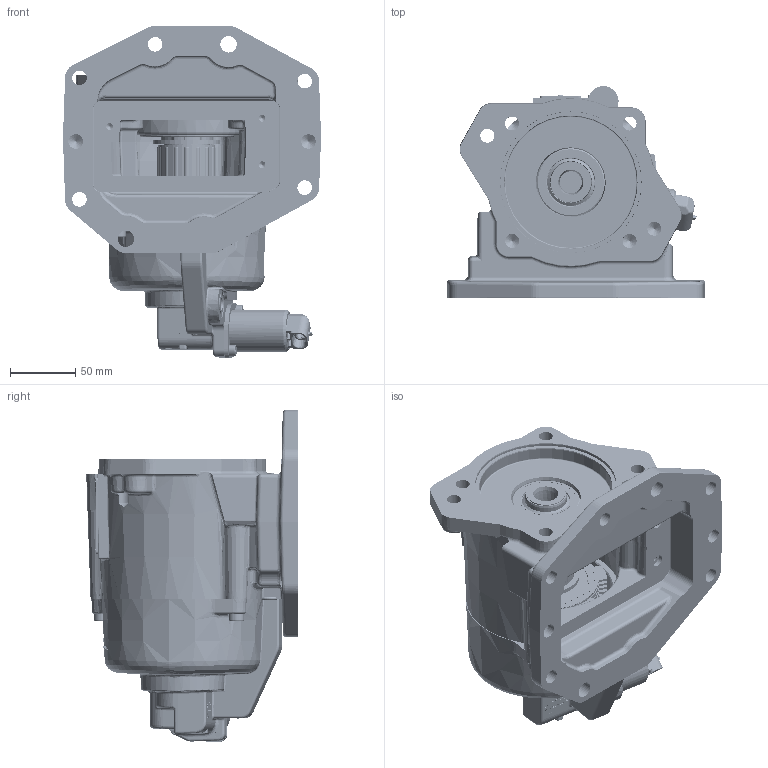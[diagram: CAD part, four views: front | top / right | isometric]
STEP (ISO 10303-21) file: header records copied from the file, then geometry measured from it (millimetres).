
FILE_DESCRIPTION (( 'STEP AP203' ), '1' );
FILE_NAME ('F22-F1312-XX5BBXX.STEP', '2023-04-18T14:20:44', ( '' ), ( '' ), 'SwSTEP 2.0', 'SolidWorks 2021', '' );
FILE_SCHEMA (( 'CONFIG_CONTROL_DESIGN' ));
Length unit declared in the file: inch
Products named in the file (30): SC-253_12T36872; SC-301_BB_25T37702; 49T64056; 01T66140DB1; 49T64057; 15T64932; 10T39072; 25T65492; 49T36258; 10T62471; 35T43600; 19T65396; F22-F1312-XX5BBXX; 24T39182; 12T39023; SC-301_25T35724; SC-253_12T36280; SC-253_12T36878; 19T62950; 36T62352; 06T64164; 25T65123; 49T65367; 35M35821M; 11T63830; 27T61827; 21T62472; 12T64059; 24T36470; 10T21017
Assembly tree (55 placements, depth 2):
  F22-F1312-XX5BBXX
    10T21017
    10T39072
    24T39182
    49T64057
    49T64056
    27T61827
    24T36470
    36T62352
    35M35821M  x2
    11T63830
    12T39023  x2
    21T62472  x2
    19T62950  x2
    SC-301_BB_25T37702  x2
    SC-253_12T36280  x2
    SC-253_12T36872
    35T43600
    01T66140DB1
    06T64164
    10T62471
    SC-253_12T36878
    15T64932
    12T64059
    25T65123  x4
    49T65367  x9
    49T36258  x8
    19T65396  x3
    25T65492
    SC-301_25T35724
Bounding box: 197.37 x 161.75 x 253.82 mm (x, y, z)
Volume: 1669223.2 mm3; surface area: 613485.3 mm2
Topology: 92 solids, 94 shells, 8718 faces, 23972 edges, 15376 vertices
Faces by surface type: plane 3439, cylinder 2996, bspline 1197, cone 556, torus 471, sphere 59
Entity records: 204146 total; most frequent: CARTESIAN_POINT 94656, ORIENTED_EDGE 24170, DIRECTION 19076, EDGE_CURVE 12085, VERTEX_POINT 7609, AXIS2_PLACEMENT_3D 7380, EDGE_LOOP 5092, ADVANCED_FACE 4720
